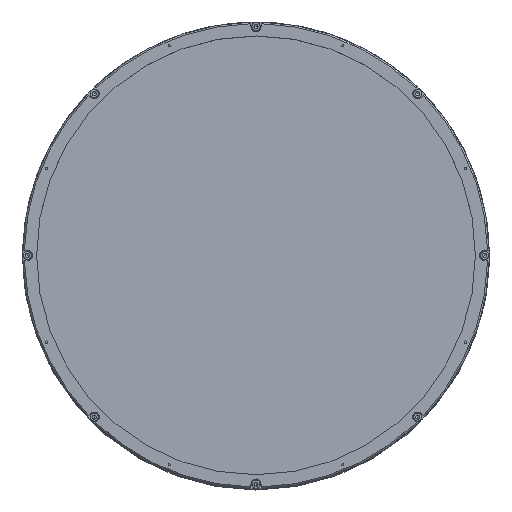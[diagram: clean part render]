
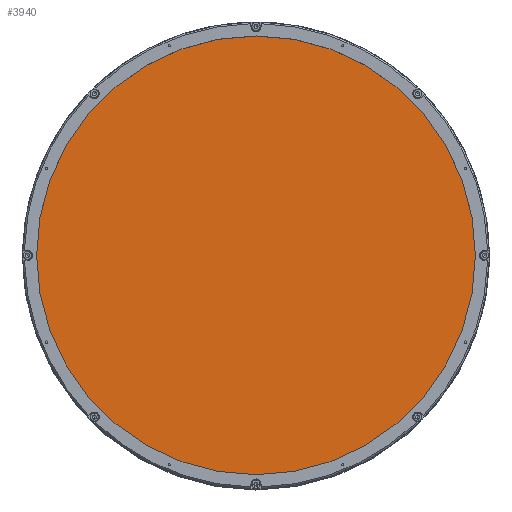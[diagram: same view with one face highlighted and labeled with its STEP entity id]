
A CAD part, top view. The second image highlights one B-rep face of the part: STEP entity #3940.
In plain terms, the highlighted planar face has unit normal (0, 0, 1).
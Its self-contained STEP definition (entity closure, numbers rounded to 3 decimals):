
#1717 = CARTESIAN_POINT ( 'NONE',  ( 0., 0., 585.84 ) ) ;
#3488 = PLANE ( 'NONE',  #22369 ) ;
#3940 = ADVANCED_FACE ( 'NONE', ( #7551 ), #3488, .F. ) ;
#7551 = FACE_OUTER_BOUND ( 'NONE', #10324, .T. ) ;
#8862 = CARTESIAN_POINT ( 'NONE',  ( -141., 0., 585.84 ) ) ;
#10162 = DIRECTION ( 'NONE',  ( 0., 0., -1. ) ) ;
#10324 = EDGE_LOOP ( 'NONE', ( #18364 ) ) ;
#11108 = AXIS2_PLACEMENT_3D ( 'NONE', #20570, #10162, #22355 ) ;
#14100 = VERTEX_POINT ( 'NONE', #8862 ) ;
#15598 = DIRECTION ( 'NONE',  ( -1., 0., 0. ) ) ;
#17781 = CIRCLE ( 'NONE', #11108, 141. ) ;
#18364 = ORIENTED_EDGE ( 'NONE', *, *, #22016, .F. ) ;
#19078 = DIRECTION ( 'NONE',  ( 0., 0., -1. ) ) ;
#20570 = CARTESIAN_POINT ( 'NONE',  ( 0., 0., 585.84 ) ) ;
#22016 = EDGE_CURVE ( 'NONE', #14100, #14100, #17781, .T. ) ;
#22355 = DIRECTION ( 'NONE',  ( -1., 0., 0. ) ) ;
#22369 = AXIS2_PLACEMENT_3D ( 'NONE', #1717, #19078, #15598 ) ;
